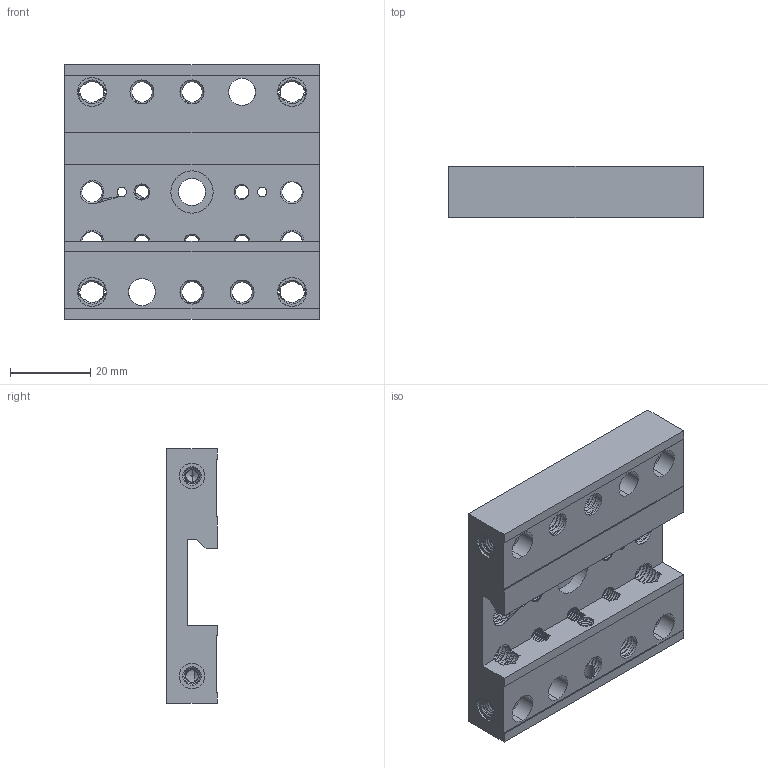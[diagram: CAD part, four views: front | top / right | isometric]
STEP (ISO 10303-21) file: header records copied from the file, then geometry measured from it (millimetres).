
FILE_DESCRIPTION((''),'2;1');
FILE_NAME('OOP-U63_5','2021-02-24T',('Administrator'),(''),'CREO PARAMETRIC BY PTC INC, 2017300','CREO PARAMETRIC BY PTC INC, 2017300','');
FILE_SCHEMA(('CONFIG_CONTROL_DESIGN'));
Products named in the file (1): OOP-U63_5
Bounding box: 63.5 x 12.7 x 63.5 mm (x, y, z)
Volume: 33581 mm3; surface area: 18355.9 mm2
Topology: 1 solids, 1 shells, 1139 faces, 3561 edges, 2262 vertices
Faces by surface type: bspline 571, cylinder 328, plane 118, cone 83, extrusion 39
Entity records: 109823 total; most frequent: CARTESIAN_POINT 83452, ORIENTED_EDGE 7078, EDGE_CURVE 3539, DIRECTION 2963, VERTEX_POINT 2262, B_SPLINE_CURVE_WITH_KNOTS 2009, VECTOR 1311, LINE 1272
